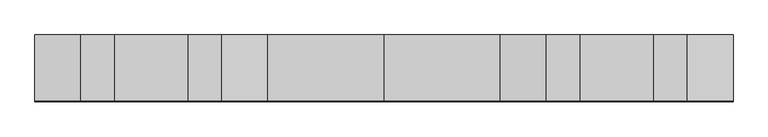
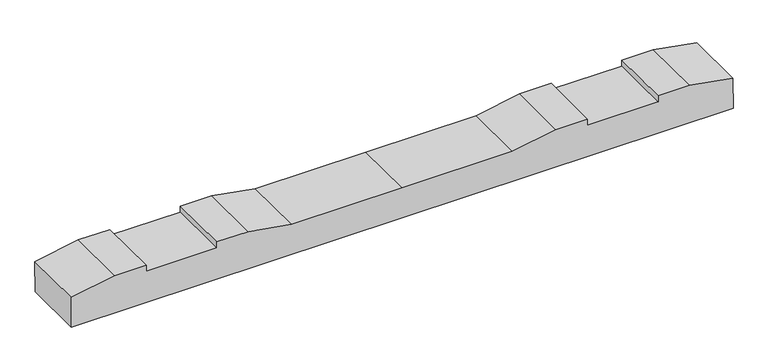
"""IFC4 building model written with IfcOpenShell, lengths in millimetres: proxy geometry, 轨枕-立面角度 : 轨枕-立面角度."""

from ifc_helpers import new_model, si_unit, frame, origin, place, context, project, spatial, polyline, outline, extrude, source, transform, mapped, element, save


def generic_models_156f3868(model_context):
    return source(origin(), model_context, "Body", "SweptSolid", [
        extrude(outline(polyline([(0.0, 0.0), (0.0, -100.0206889), (-137.8834664, -124.5), (-237.8834664, -124.5), (-237.8834664, -104.5), (-461.8834664, -104.5), (-461.8834664, -124.5), (-561.8834664, -124.5), (-699.8834664, -100.0), (-1049.8834664, -100.0), (-1399.8834664, -100.0), (-1537.8834664, -124.5), (-1637.8834664, -124.5), (-1637.8834664, -104.5), (-1861.8834664, -104.5), (-1861.8834664, -124.5), (-1961.8834664, -124.5), (-2099.7669328, -100.0206889), (-2099.7669328, 0.0), (0.0, 0.0)])), frame((-1049.8834664, 99.4555291, -105.0183209), z_axis=(0.0, -0.9999864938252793, 0.005197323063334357), x_axis=(-1.0, 0.0, 0.0)), (0.0, 0.0, 1.0), 200.0),
    ])


if __name__ == "__main__":
    model = new_model("IFC4")
    model_context = context("Model", 3, world=origin())
    ifc_project = project(units=[si_unit("LENGTHUNIT", "METRE", prefix="MILLI")], contexts=[model_context])
    site = spatial("IfcSite", under=ifc_project)
    building = spatial("IfcBuilding", under=site)
    placement = place(None, origin())
    generic_models_shape = generic_models_156f3868(model_context)
    element("IfcBuildingElementProxy", 1, Name="轨枕-立面角度 : 轨枕-立面角度", ObjectType="轨枕-立面角度 : 轨枕-立面角度", at=placement, inside=building, context=model_context, shape_type="MappedRepresentation", body=[
        mapped(generic_models_shape, transform((0.0, 0.0, 0.0), x_axis=(1.0, 0.0, 0.0), y_axis=(0.0, 1.0, 0.0), z_axis=(0.0, 0.0, 1.0))),
    ])
    save(model, "model.ifc")
